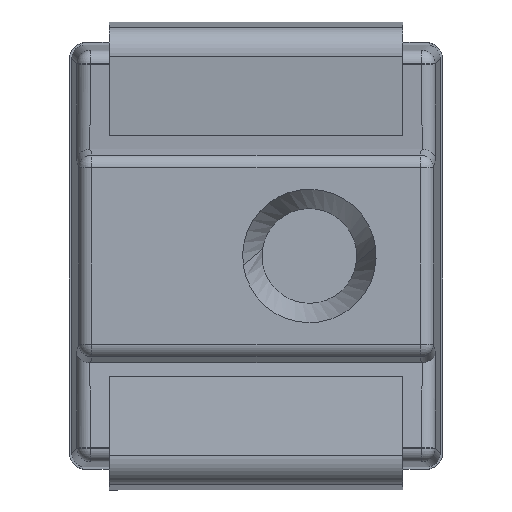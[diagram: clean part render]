
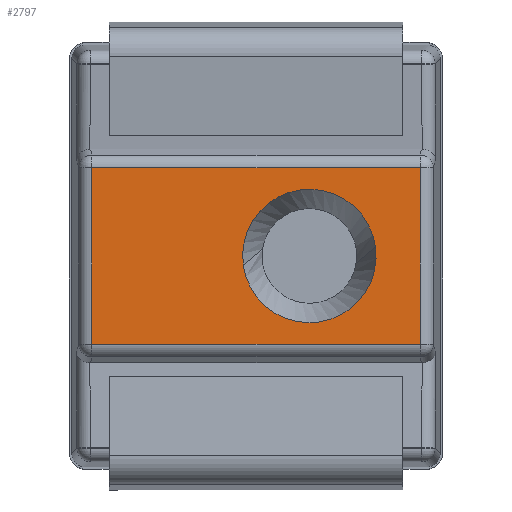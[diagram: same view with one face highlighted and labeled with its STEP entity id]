
A CAD part, left-side view. The second image highlights one B-rep face of the part: STEP entity #2797.
In plain terms, the highlighted planar face has unit normal (-1, 0, 0) as drawn and (0, 0, -1) by its records, which use the part's own axes.
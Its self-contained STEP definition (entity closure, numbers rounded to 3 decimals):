
#241 = VECTOR ( 'NONE', #2162, 1000. ) ;
#324 = EDGE_LOOP ( 'NONE', ( #2509, #2527, #2514, #3574 ) ) ;
#342 = AXIS2_PLACEMENT_3D ( 'NONE', #3113, #3556, #674 ) ;
#358 = VECTOR ( 'NONE', #1404, 1000. ) ;
#377 = CARTESIAN_POINT ( 'NONE',  ( 1.38, 0.733, -1.75 ) ) ;
#405 = ORIENTED_EDGE ( 'NONE', *, *, #4564, .F. ) ;
#443 = EDGE_CURVE ( 'NONE', #3409, #4567, #4270, .T. ) ;
#460 = CARTESIAN_POINT ( 'NONE',  ( -1.231, 0.661, -1.75 ) ) ;
#674 = DIRECTION ( 'NONE',  ( 0., 1., 0. ) ) ;
#720 = DIRECTION ( 'NONE',  ( 0., 0., 1. ) ) ;
#757 = CARTESIAN_POINT ( 'NONE',  ( 1.38, -0.661, -1.75 ) ) ;
#892 = DIRECTION ( 'NONE',  ( 0., 1., 0. ) ) ;
#998 = VERTEX_POINT ( 'NONE', #460 ) ;
#1068 = LINE ( 'NONE', #2475, #358 ) ;
#1300 = CIRCLE ( 'NONE', #342, 0.5 ) ;
#1318 = FACE_BOUND ( 'NONE', #4364, .T. ) ;
#1339 = CARTESIAN_POINT ( 'NONE',  ( 0.895, -0.068, -1.75 ) ) ;
#1404 = DIRECTION ( 'NONE',  ( 1., 0., 0. ) ) ;
#1488 = VERTEX_POINT ( 'NONE', #2565 ) ;
#1567 = CARTESIAN_POINT ( 'NONE',  ( 1.231, -0.661, -1.75 ) ) ;
#1599 = CIRCLE ( 'NONE', #3675, 0.5 ) ;
#1784 = CARTESIAN_POINT ( 'NONE',  ( 0.4, 0., -1.75 ) ) ;
#1881 = EDGE_CURVE ( 'NONE', #1488, #998, #2286, .T. ) ;
#2098 = DIRECTION ( 'NONE',  ( -1., 0., 0. ) ) ;
#2105 = DIRECTION ( 'NONE',  ( 0., 1., 0. ) ) ;
#2162 = DIRECTION ( 'NONE',  ( 0., 1., 0. ) ) ;
#2286 = LINE ( 'NONE', #2643, #3581 ) ;
#2343 = AXIS2_PLACEMENT_3D ( 'NONE', #377, #720, #2105 ) ;
#2446 = DIRECTION ( 'NONE',  ( 0., 0., -1. ) ) ;
#2475 = CARTESIAN_POINT ( 'NONE',  ( 1.38, 0.661, -1.75 ) ) ;
#2509 = ORIENTED_EDGE ( 'NONE', *, *, #443, .F. ) ;
#2514 = ORIENTED_EDGE ( 'NONE', *, *, #1881, .T. ) ;
#2527 = ORIENTED_EDGE ( 'NONE', *, *, #3818, .T. ) ;
#2540 = ORIENTED_EDGE ( 'NONE', *, *, #3031, .F. ) ;
#2565 = CARTESIAN_POINT ( 'NONE',  ( -1.231, -0.661, -1.75 ) ) ;
#2643 = CARTESIAN_POINT ( 'NONE',  ( -1.231, 2.5, -1.75 ) ) ;
#2741 = PLANE ( 'NONE',  #2343 ) ;
#2789 = VERTEX_POINT ( 'NONE', #1339 ) ;
#2797 = ADVANCED_FACE ( 'NONE', ( #3813, #1318 ), #2741, .F. ) ;
#2808 = CARTESIAN_POINT ( 'NONE',  ( 1.231, 0.661, -1.75 ) ) ;
#2819 = EDGE_CURVE ( 'NONE', #998, #4567, #1068, .T. ) ;
#3031 = EDGE_CURVE ( 'NONE', #3580, #2789, #1599, .T. ) ;
#3113 = CARTESIAN_POINT ( 'NONE',  ( 0.4, 0., -1.75 ) ) ;
#3142 = CARTESIAN_POINT ( 'NONE',  ( -0.095, 0.068, -1.75 ) ) ;
#3409 = VERTEX_POINT ( 'NONE', #1567 ) ;
#3502 = DIRECTION ( 'NONE',  ( 0., 1., 0. ) ) ;
#3556 = DIRECTION ( 'NONE',  ( 0., 0., -1. ) ) ;
#3574 = ORIENTED_EDGE ( 'NONE', *, *, #2819, .T. ) ;
#3580 = VERTEX_POINT ( 'NONE', #3142 ) ;
#3581 = VECTOR ( 'NONE', #892, 1000. ) ;
#3675 = AXIS2_PLACEMENT_3D ( 'NONE', #1784, #2446, #3502 ) ;
#3813 = FACE_OUTER_BOUND ( 'NONE', #324, .T. ) ;
#3818 = EDGE_CURVE ( 'NONE', #3409, #1488, #4569, .T. ) ;
#4258 = VECTOR ( 'NONE', #2098, 1000. ) ;
#4270 = LINE ( 'NONE', #4312, #241 ) ;
#4312 = CARTESIAN_POINT ( 'NONE',  ( 1.231, 2.5, -1.75 ) ) ;
#4364 = EDGE_LOOP ( 'NONE', ( #405, #2540 ) ) ;
#4564 = EDGE_CURVE ( 'NONE', #2789, #3580, #1300, .T. ) ;
#4567 = VERTEX_POINT ( 'NONE', #2808 ) ;
#4569 = LINE ( 'NONE', #757, #4258 ) ;
